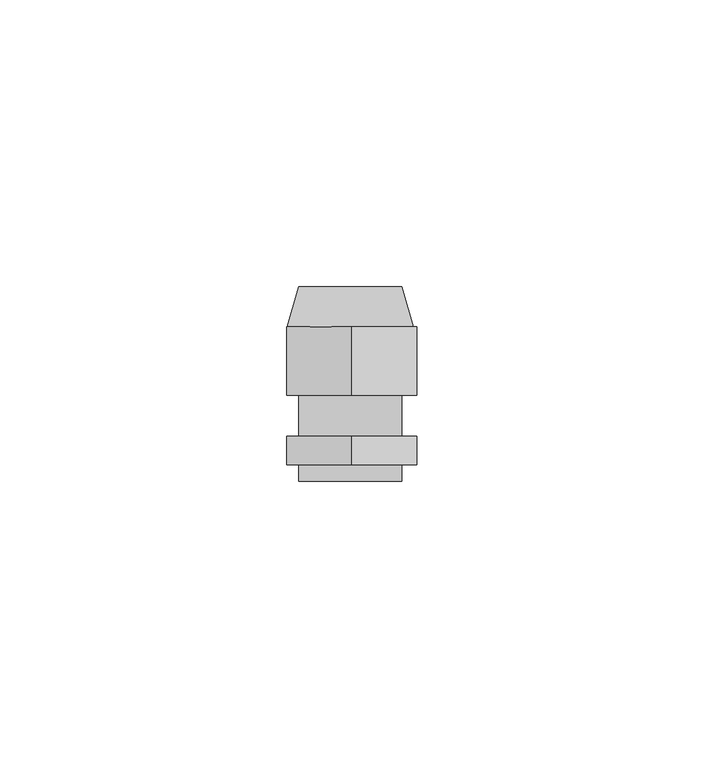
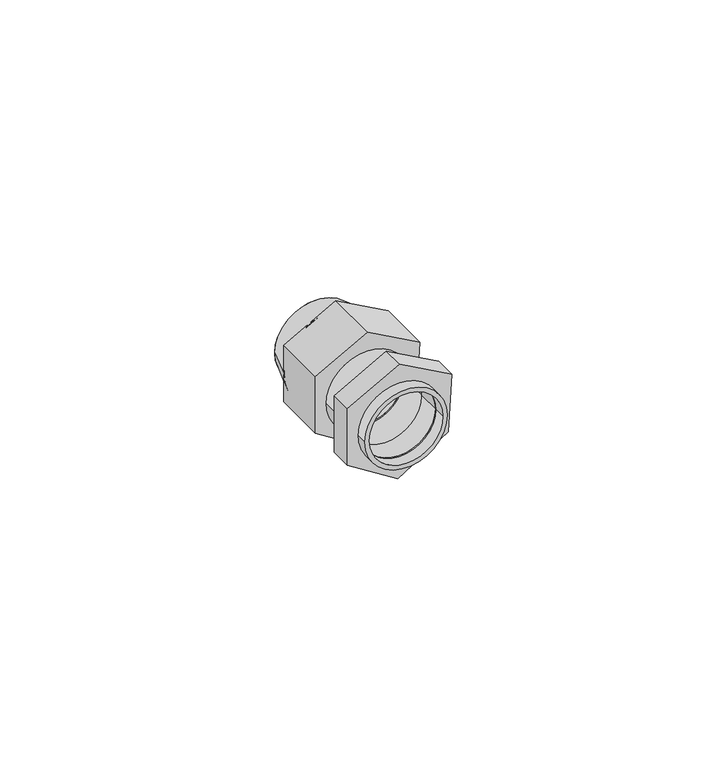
"""IFC4 building model written with IfcOpenShell, lengths in millimetres: cable carrier fitting geometry, Сальник_PGL_D_11-48_IP54 : Сальник PG 11 диаметр проводника 5-10мм IP54."""

from ifc_helpers import new_model, si_unit, point, frame, frame_2d, origin, place, context, project, spatial, polyline, circle_curve, trimmed, segment, composite_curve, outline, extrude, source, transform, mapped, element, save
from ifc_brep_helpers import plane_surface, revolved_surface, advanced_brep


def cable_carrier_fitting_899d4dfe(model_context):
    return source(origin(), model_context, "Body", "SolidModel", [
        advanced_brep(
        [(-7.9094864, 0.0, 0.0057257), (-7.9094864, -7.0, 0.0057257), (8.0905136, -7.0, 0.0057257), (8.0905136, 0.0, 0.0057257), (-10.9010286, -7.0, 0.0), (11.0989714, -7.0, 0.0), (-8.9010286, 0.0, 0.0), (9.0989714, 0.0, 0.0)],
        [
            (0, 1),
            (1, 2, circle_curve(frame((0.0905136, -7.0, 0.0057257), z_axis=(0.0, -1.0, 0.0), x_axis=(1.0, 0.0, 0.0)), 8.0)),
            (2, 3),
            (3, 0, circle_curve(frame((0.0905136, 0.0, 0.0057257), z_axis=(0.0, 1.0, 0.0), x_axis=(1.0, 0.0, 0.0)), 8.0)),
            (0, 3, circle_curve(frame((0.0905136, 0.0, 0.0057257), z_axis=(0.0, 1.0, 0.0), x_axis=(1.0, 0.0, 0.0)), 8.0)),
            (2, 1, circle_curve(frame((0.0905136, -7.0, 0.0057257), z_axis=(0.0, -1.0, 0.0), x_axis=(1.0, 0.0, 0.0)), 8.0)),
            (4, 5, circle_curve(frame((0.0989714, -7.0, 0.0), z_axis=(0.0, -1.0, 0.0), x_axis=(-1.0, 0.0, 0.0)), 11.0)),
            (5, 4, circle_curve(frame((0.0989714, -7.0, 0.0), z_axis=(0.0, -1.0, 0.0), x_axis=(1.0, 0.0, 0.0)), 11.0)),
            (6, 7, circle_curve(frame((0.0989714, 0.0, 0.0), z_axis=(0.0, 1.0, 0.0), x_axis=(1.0, 0.0, 0.0)), 9.0)),
            (7, 6, circle_curve(frame((0.0989714, 0.0, 0.0), z_axis=(0.0, 1.0, 0.0), x_axis=(-1.0, 0.0, 0.0)), 9.0)),
            (4, 6),
            (7, 5),
        ],
        [
            revolved_surface(polyline([(8.0905136, -7.0, 0.0057257), (8.0905136, 0.0, 0.0057257)]), (0.0905136, 9.180646, 0.0057257), (0.0, -1.0, 0.0)),
            plane_surface(frame((0.0989714, -7.0, 0.0), z_axis=(0.0, -1.0, 0.0), x_axis=(0.0, 0.0, -1.0))),
            plane_surface(frame((0.0989714, 0.0, 0.0), z_axis=(0.0, 1.0, 0.0), x_axis=(0.0, 0.0, -1.0))),
            revolved_surface(polyline([(9.0989714, -3.552713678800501e-15, 0.0), (11.0989714, -7.0, 0.0)]), (0.0989714, 31.5, 0.0), (0.0, -1.0, 0.0)),
            revolved_surface(polyline([(-8.9010286, -3.552713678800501e-15, 0.0), (-10.9010286, -7.0, 0.0)]), (0.0989714, 31.5, 0.0), (0.0, -1.0, 0.0)),
        ],
        [
            (0, [[1, 2, 3, 4]]),
            (0, [[-1, 5, -3, 6]]),
            (1, [[7, 8], [-2, -6]]),
            (2, [[9, 10], [-4, -5]]),
            (3, [[-7, 11, -10, 12]]),
            (4, [[-8, -12, -9, -11]]),
        ],
    ),
        extrude(outline(polyline([(-6.3036131, 11.0), (6.674251, 11.7583163), (12.9713829, 0.3852723), (6.6963869, -11.0), (-6.3036131, -11.0), (-13.2318163, 0.0), (-6.3036131, 11.0)]), holes=[composite_curve([segment(trimmed(circle_curve(frame_2d((0.0057257, 0.0905136)), 8.0), [point((0.0057257, 8.0905136))], [point((0.0057257, -7.9094864))], True, "CARTESIAN"), True, "CONTINUOUS"), segment(trimmed(circle_curve(frame_2d((0.0057257, 0.0905136)), 8.0), [point((0.0057257, -7.9094864))], [point((0.0057257, 8.0905136))], True, "CARTESIAN"), True, "CONTINUOUS")], self_intersect=False)]), frame((0.0, -19.0, 0.0), z_axis=(0.0, 1.0, 0.0), x_axis=(0.0, 0.0, 1.0)), (0.0, 0.0, 1.0), 12.0),
        extrude(outline(polyline([(-6.3036131, 11.0), (6.674251, 11.7583163), (12.9713829, 0.3852723), (6.6963869, -11.0), (-6.3036131, -11.0), (-13.2318163, 0.0), (-6.3036131, 11.0)]), holes=[composite_curve([segment(trimmed(circle_curve(frame_2d((0.0057257, 0.0905136)), 8.0), [point((0.0057257, 8.0905136))], [point((0.0057257, -7.9094864))], True, "CARTESIAN"), True, "CONTINUOUS"), segment(trimmed(circle_curve(frame_2d((0.0057257, 0.0905136)), 8.0), [point((0.0057257, -7.9094864))], [point((0.0057257, 8.0905136))], True, "CARTESIAN"), True, "CONTINUOUS")], self_intersect=False)]), frame((0.0, -31.1018563, 0.0), z_axis=(0.0, 1.0, 0.0), x_axis=(0.0, 0.0, 1.0)), (0.0, 0.0, 1.0), 5.0),
        extrude(outline(composite_curve([segment(trimmed(circle_curve(frame_2d((0.0032191, 0.0900025)), 9.0), [point((0.0032191, -8.9099975))], [point((0.0032191, 9.0900025))], False, "CARTESIAN"), True, "CONTINUOUS"), segment(trimmed(circle_curve(frame_2d((0.0032191, 0.0900025)), 9.0), [point((0.0032191, 9.0900025))], [point((0.0032191, -8.9099975))], False, "CARTESIAN"), True, "CONTINUOUS")], self_intersect=False), holes=[composite_curve([segment(trimmed(circle_curve(frame_2d((0.0057257, 0.0905136)), 8.0), [point((0.0057257, 8.0905136))], [point((0.0057257, -7.9094864))], True, "CARTESIAN"), True, "CONTINUOUS"), segment(trimmed(circle_curve(frame_2d((0.0057257, 0.0905136)), 8.0), [point((0.0057257, -7.9094864))], [point((0.0057257, 8.0905136))], True, "CARTESIAN"), True, "CONTINUOUS")], self_intersect=False)]), frame((0.0, -34.0, 0.0), z_axis=(0.0, 1.0, 0.0), x_axis=(0.0, 0.0, 1.0)), (0.0, 0.0, 1.0), 34.0),
    ])


if __name__ == "__main__":
    model = new_model("IFC4")
    model_context = context("Model", 3, world=origin())
    ifc_project = project(units=[si_unit("LENGTHUNIT", "METRE", prefix="MILLI")], contexts=[model_context])
    site = spatial("IfcSite", under=ifc_project)
    building = spatial("IfcBuilding", under=site)
    placement = place(None, origin())
    cable_carrier_fitting_shape = cable_carrier_fitting_899d4dfe(model_context)
    element("IfcCableCarrierFitting", 1, ObjectType="Сальник_PGL_D_11-48_IP54 : Сальник PG 11 диаметр проводника 5-10мм IP54", at=placement, inside=building, context=model_context, shape_type="MappedRepresentation", body=[
        mapped(cable_carrier_fitting_shape, transform((0.0, 0.0, 0.0), x_axis=(1.0, 0.0, 0.0), y_axis=(0.0, 1.0, 0.0), z_axis=(0.0, 0.0, 1.0))),
    ])
    save(model, "model.ifc")
